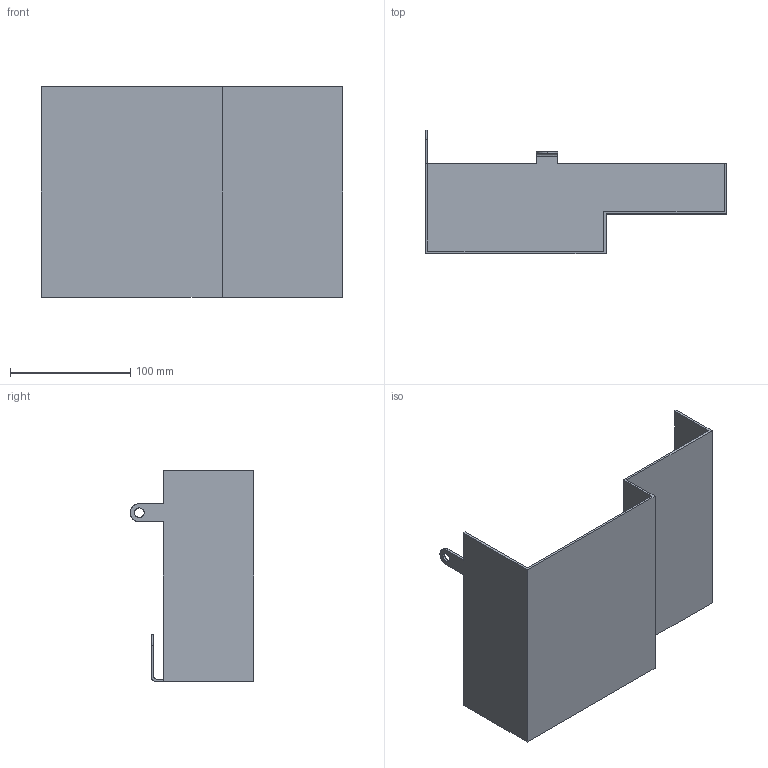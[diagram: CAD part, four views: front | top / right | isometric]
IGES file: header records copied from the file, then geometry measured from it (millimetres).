
Start section: SolidWorks IGES FILE using analytic representation for surfaces
Global section: file name: D:\2001 Training Manuals\NEW-PAD\Instructor Files\Lesson13\IGESimport.IGS; native system: SolidWorks 2001 by SolidWorks Corporation; preprocessor: Version 5.2; author: fkoehler; date: 001006.095945; units: millimetre
Bounding box: 250 x 102.5 x 175 mm (x, y, z)
Surface area: 172475.1 mm2 (no closed solid volume)
Topology: 0 solids, 0 shells, 29 faces, 308 edges, 308 vertices
Faces by surface type: bspline 29
